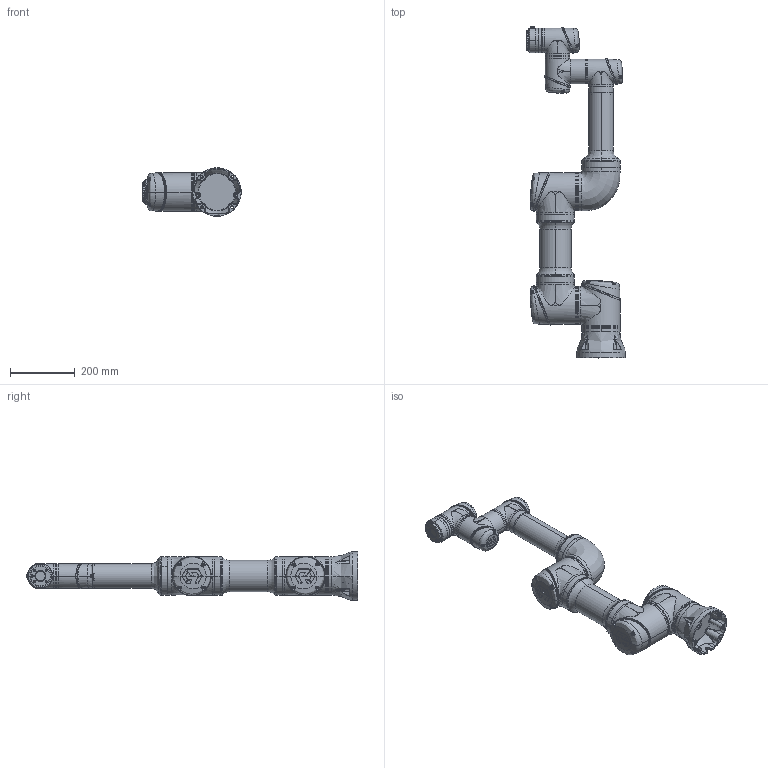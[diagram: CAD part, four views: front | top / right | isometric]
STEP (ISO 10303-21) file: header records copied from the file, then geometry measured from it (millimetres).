
FILE_DESCRIPTION (( 'STEP AP203' ), '1' );
FILE_NAME ('ES_掛极ES68_V1.1.STEP', '2025-07-03T02:38:53', ( '' ), ( '' ), 'SwSTEP 2.0', 'SolidWorks 2017', '' );
FILE_SCHEMA (( 'CONFIG_CONTROL_DESIGN' ));
Length unit declared in the file: millimetre
Products named in the file (8): ES68-Base; ES68-Link4; ES68-Link5; ES68-Flange; ES68_Link2; ES_掛极ES68_V1.1; ES68-Link1; ES68-Link3
Assembly tree (7 placements, depth 2):
  ES_掛极ES68_V1.1
    ES68-Base
    ES68-Link1
    ES68_Link2
    ES68-Link3
    ES68-Link4
    ES68-Link5
    ES68-Flange
Bounding box: 304.35 x 1026.7 x 149.7 mm (x, y, z)
Volume: 12521595.4 mm3; surface area: 940940.5 mm2
Topology: 70 solids, 77 shells, 4628 faces, 11112 edges, 6660 vertices
Faces by surface type: bspline 2228, plane 1080, cylinder 722, cone 321, sphere 153, torus 124
Entity records: 771604 total; most frequent: CARTESIAN_POINT 681847, ORIENTED_EDGE 21810, DIRECTION 13846, EDGE_CURVE 10905, VERTEX_POINT 6648, AXIS2_PLACEMENT_3D 5863, EDGE_LOOP 4917, B_SPLINE_CURVE_WITH_KNOTS 4809
